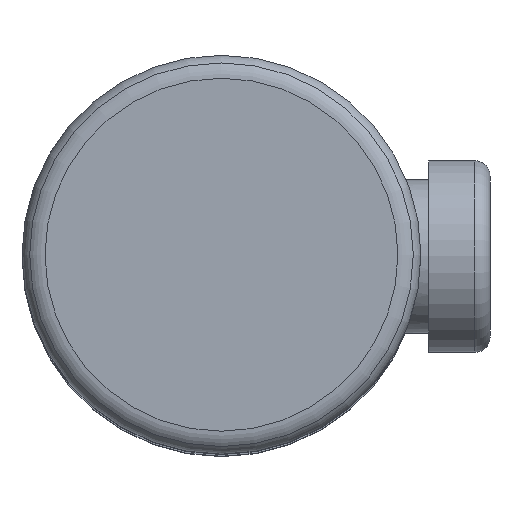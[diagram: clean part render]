
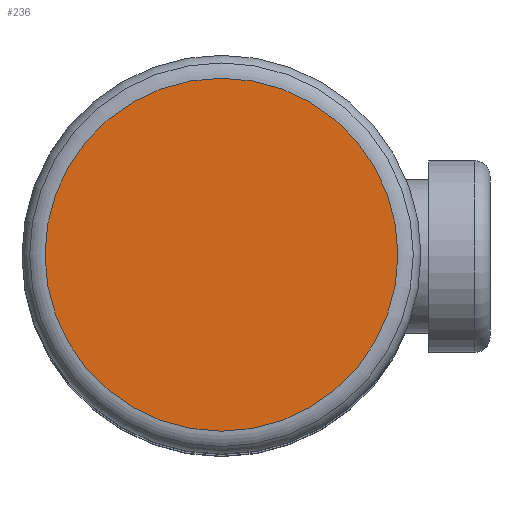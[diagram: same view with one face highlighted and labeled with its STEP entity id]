
A CAD part, top view. The second image highlights one B-rep face of the part: STEP entity #236.
In plain terms, the highlighted planar face has unit normal (0, 0, 1).
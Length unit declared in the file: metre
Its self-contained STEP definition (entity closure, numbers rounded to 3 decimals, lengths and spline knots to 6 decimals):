
#13=PLANE('',#312);
#52=ORIENTED_EDGE('',*,*,#83,.T.);
#83=EDGE_CURVE('',#104,#104,#125,.T.);
#104=VERTEX_POINT('',#429);
#125=CIRCLE('',#299,0.023);
#155=EDGE_LOOP('',(#52));
#197=FACE_BOUND('',#155,.T.);
#236=ADVANCED_FACE('',(#197),#13,.T.);
#299=AXIS2_PLACEMENT_3D('',#428,#344,#345);
#312=AXIS2_PLACEMENT_3D('',#470,#370,#371);
#344=DIRECTION('',(0.,0.,1.));
#345=DIRECTION('',(1.,0.,0.));
#370=DIRECTION('',(0.,0.,1.));
#371=DIRECTION('',(1.,0.,0.));
#428=CARTESIAN_POINT('',(0.,0.,0.013706));
#429=CARTESIAN_POINT('',(0.023,0.,0.013706));
#470=CARTESIAN_POINT('',(0.,0.,0.013706));
